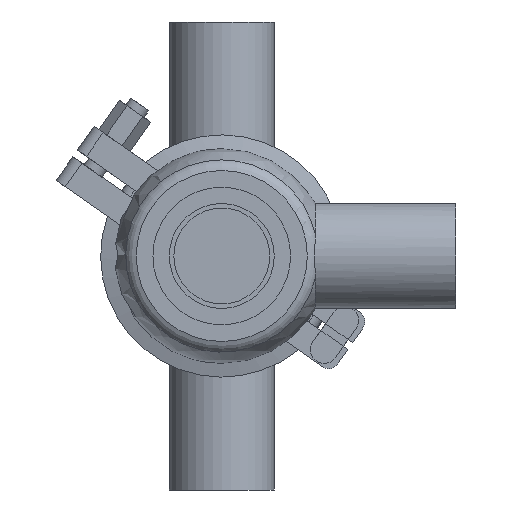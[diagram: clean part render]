
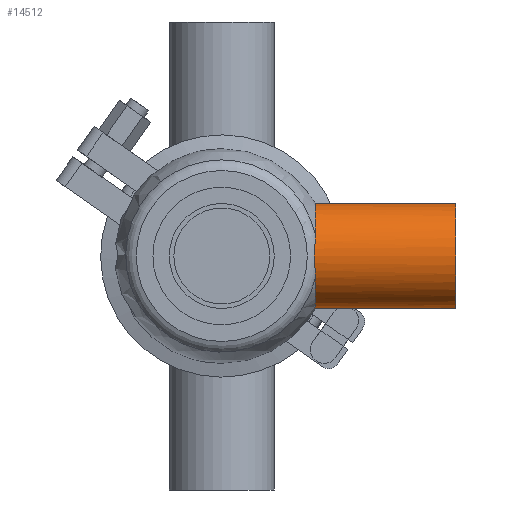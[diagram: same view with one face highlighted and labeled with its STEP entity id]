
A CAD part, front view. The second image highlights one B-rep face of the part: STEP entity #14512.
In plain terms, the highlighted cylindrical face has radius 19.05 mm (diameter 38.1 mm), a full revolution.
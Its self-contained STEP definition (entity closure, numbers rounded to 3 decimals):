
#944 = EDGE_LOOP ( 'NONE', ( #2405 ) ) ;
#1891 = CARTESIAN_POINT ( 'NONE',  ( 33.693, -19.015, -1.338 ) ) ;
#2011 = B_SPLINE_CURVE_WITH_KNOTS ( 'NONE', 3,
 ( #5701, #10514, #8867, #16679, #7047, #19629, #18135, #10813, #1891, #14395, #15764, #8162, #18771, #7962 ),
 .UNSPECIFIED., .F., .F.,
 ( 4, 2, 2, 2, 2, 2, 4 ),
 ( 0., 0.004, 0.006, 0.008, 0.01, 0.012, 0.016 ),
 .UNSPECIFIED. ) ;
#2405 = ORIENTED_EDGE ( 'NONE', *, *, #10874, .T. ) ;
#4364 = VERTEX_POINT ( 'NONE', #9081 ) ;
#4741 = DIRECTION ( 'NONE',  ( -1., 0., 0. ) ) ;
#4850 = CARTESIAN_POINT ( 'NONE',  ( 0., 0., 0. ) ) ;
#4936 = CYLINDRICAL_SURFACE ( 'NONE', #11915, 19.05 ) ;
#5127 = CARTESIAN_POINT ( 'NONE',  ( 85., 0., 0. ) ) ;
#5701 = CARTESIAN_POINT ( 'NONE',  ( 34.031, -17.366, 7.83 ) ) ;
#7047 = CARTESIAN_POINT ( 'NONE',  ( 33.756, -18.872, 2.686 ) ) ;
#7286 = EDGE_CURVE ( 'NONE', #10658, #17377, #2011, .T. ) ;
#7962 = CARTESIAN_POINT ( 'NONE',  ( 34.031, -17.366, -7.83 ) ) ;
#8081 = AXIS2_PLACEMENT_3D ( 'NONE', #5127, #14747, #11351 ) ;
#8162 = CARTESIAN_POINT ( 'NONE',  ( 33.936, -18.344, -5.312 ) ) ;
#8867 = CARTESIAN_POINT ( 'NONE',  ( 33.937, -18.342, 5.317 ) ) ;
#8869 = DIRECTION ( 'NONE',  ( 0., 0., 1. ) ) ;
#9081 = CARTESIAN_POINT ( 'NONE',  ( 85., 0., 19.05 ) ) ;
#9570 = DIRECTION ( 'NONE',  ( 1., 0., 0. ) ) ;
#9685 = CARTESIAN_POINT ( 'NONE',  ( 34.031, 0., 0. ) ) ;
#10027 = FACE_OUTER_BOUND ( 'NONE', #944, .T. ) ;
#10514 = CARTESIAN_POINT ( 'NONE',  ( 34.031, -17.925, 6.591 ) ) ;
#10658 = VERTEX_POINT ( 'NONE', #15292 ) ;
#10813 = CARTESIAN_POINT ( 'NONE',  ( 33.675, -19.05, -0.671 ) ) ;
#10874 = EDGE_CURVE ( 'NONE', #4364, #4364, #14295, .T. ) ;
#10986 = ORIENTED_EDGE ( 'NONE', *, *, #7286, .T. ) ;
#11351 = DIRECTION ( 'NONE',  ( 0., 0., 1. ) ) ;
#11636 = EDGE_CURVE ( 'NONE', #17377, #10658, #15195, .T. ) ;
#11915 = AXIS2_PLACEMENT_3D ( 'NONE', #4850, #4741, #17277 ) ;
#12866 = AXIS2_PLACEMENT_3D ( 'NONE', #9685, #9570, #8869 ) ;
#14295 = CIRCLE ( 'NONE', #8081, 19.05 ) ;
#14395 = CARTESIAN_POINT ( 'NONE',  ( 33.755, -18.874, -2.667 ) ) ;
#14512 = ADVANCED_FACE ( 'NONE', ( #18945, #10027 ), #4936, .T. ) ;
#14747 = DIRECTION ( 'NONE',  ( -1., 0., 0. ) ) ;
#15195 = CIRCLE ( 'NONE', #12866, 19.05 ) ;
#15292 = CARTESIAN_POINT ( 'NONE',  ( 34.031, -17.366, 7.83 ) ) ;
#15764 = CARTESIAN_POINT ( 'NONE',  ( 33.799, -18.769, -3.33 ) ) ;
#16679 = CARTESIAN_POINT ( 'NONE',  ( 33.8, -18.765, 3.352 ) ) ;
#17277 = DIRECTION ( 'NONE',  ( 0., 0., 1. ) ) ;
#17377 = VERTEX_POINT ( 'NONE', #17482 ) ;
#17482 = CARTESIAN_POINT ( 'NONE',  ( 34.031, -17.366, -7.83 ) ) ;
#18095 = ORIENTED_EDGE ( 'NONE', *, *, #11636, .T. ) ;
#18135 = CARTESIAN_POINT ( 'NONE',  ( 33.675, -19.05, 0.667 ) ) ;
#18771 = CARTESIAN_POINT ( 'NONE',  ( 34.031, -17.924, -6.593 ) ) ;
#18945 = FACE_OUTER_BOUND ( 'NONE', #19832, .T. ) ;
#19629 = CARTESIAN_POINT ( 'NONE',  ( 33.693, -19.015, 1.339 ) ) ;
#19832 = EDGE_LOOP ( 'NONE', ( #18095, #10986 ) ) ;
